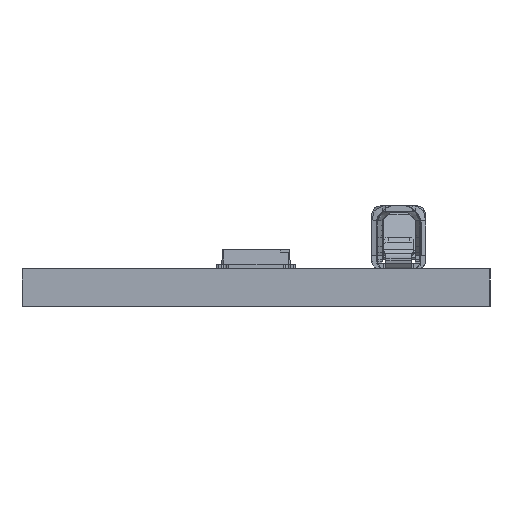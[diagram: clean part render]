
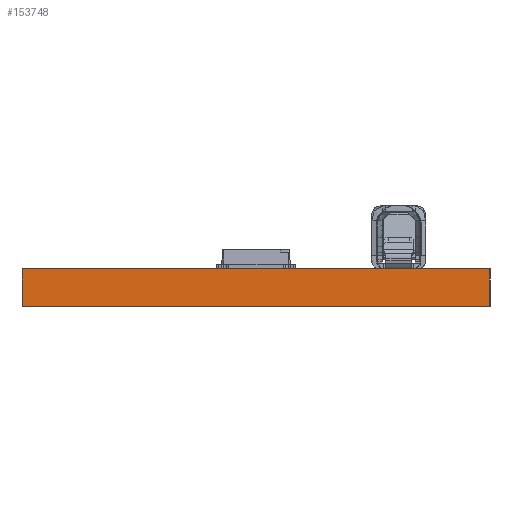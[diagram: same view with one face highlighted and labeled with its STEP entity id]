
A CAD part, left-side view. The second image highlights one B-rep face of the part: STEP entity #153748.
In plain terms, the highlighted planar face has unit normal (-1, 0, 0).
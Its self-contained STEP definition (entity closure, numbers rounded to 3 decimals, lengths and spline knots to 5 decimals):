
#14337=FACE_OUTER_BOUND('',#22483,.T.);
#22483=EDGE_LOOP('',(#131233,#131234,#131235,#131236));
#24738=LINE('',#213183,#41404);
#38485=LINE('',#251887,#55151);
#38575=LINE('',#252090,#55241);
#38576=LINE('',#252092,#55242);
#41404=VECTOR('',#169844,0.3937);
#55151=VECTOR('',#203831,0.3937);
#55241=VECTOR('',#204045,0.3937);
#55242=VECTOR('',#204048,0.3937);
#57680=VERTEX_POINT('',#213181);
#57681=VERTEX_POINT('',#213182);
#69609=VERTEX_POINT('',#251886);
#69660=VERTEX_POINT('',#252088);
#72361=EDGE_CURVE('',#57680,#57681,#24738,.T.);
#90233=EDGE_CURVE('',#57681,#69609,#38485,.T.);
#90335=EDGE_CURVE('',#57680,#69660,#38575,.T.);
#90336=EDGE_CURVE('',#69609,#69660,#38576,.T.);
#131233=ORIENTED_EDGE('',*,*,#72361,.F.);
#131234=ORIENTED_EDGE('',*,*,#90335,.T.);
#131235=ORIENTED_EDGE('',*,*,#90336,.F.);
#131236=ORIENTED_EDGE('',*,*,#90233,.F.);
#138491=PLANE('',#165677);
#153748=ADVANCED_FACE('',(#14337),#138491,.T.);
#165677=AXIS2_PLACEMENT_3D('',#252091,#204046,#204047);
#169844=DIRECTION('',(0.,-1.,0.));
#203831=DIRECTION('',(0.,0.,-1.));
#204045=DIRECTION('',(0.,0.,-1.));
#204046=DIRECTION('center_axis',(-1.,0.,0.));
#204047=DIRECTION('ref_axis',(0.,1.,0.));
#204048=DIRECTION('',(0.,1.,0.));
#213181=CARTESIAN_POINT('',(0.,0.7874,0.));
#213182=CARTESIAN_POINT('',(0.,0.,0.));
#213183=CARTESIAN_POINT('',(0.,0.7874,0.));
#251886=CARTESIAN_POINT('',(0.,0.,-0.06299));
#251887=CARTESIAN_POINT('',(0.,0.,0.));
#252088=CARTESIAN_POINT('',(0.,0.7874,-0.06299));
#252090=CARTESIAN_POINT('',(0.,0.7874,0.));
#252091=CARTESIAN_POINT('Origin',(0.,0.,0.));
#252092=CARTESIAN_POINT('',(0.,0.7874,-0.06299));
